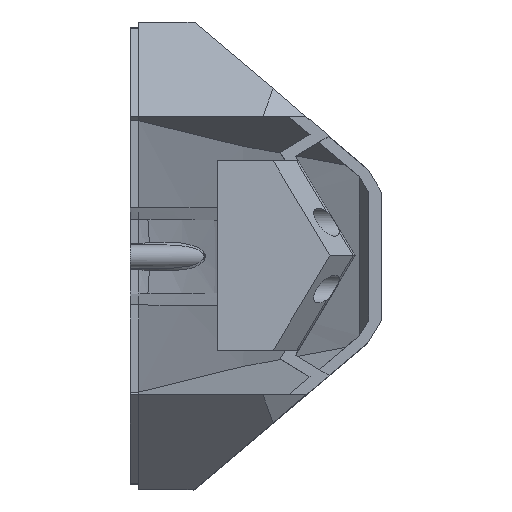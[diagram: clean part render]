
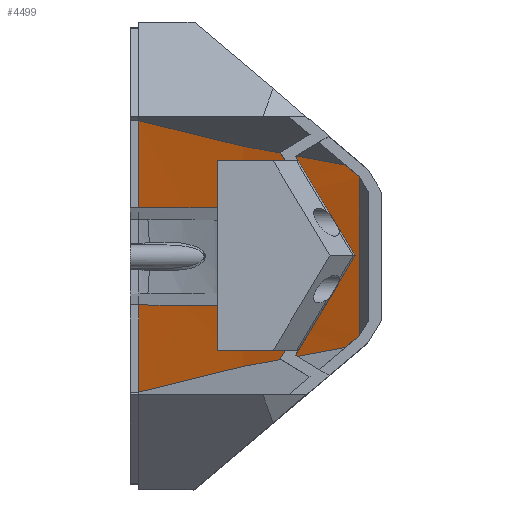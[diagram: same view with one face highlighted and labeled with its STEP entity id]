
A CAD part, top view. The second image highlights one B-rep face of the part: STEP entity #4499.
In plain terms, the highlighted cylindrical face has radius 400 mm (diameter 800 mm), a partial arc.
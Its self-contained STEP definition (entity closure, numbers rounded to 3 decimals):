
#728=CARTESIAN_POINT('',(35.435,-14.275,-13.934));
#729=CARTESIAN_POINT('',(34.609,-14.973,-14.403));
#730=CARTESIAN_POINT('',(33.782,-15.672,-14.867));
#731=CARTESIAN_POINT('',(32.954,-16.372,-15.329));
#1193=DIRECTION('',(0.,1.,0.));
#1194=VECTOR('',#1193,15.678);
#1195=CARTESIAN_POINT('',(-4.2,-24.395,-33.586));
#1196=LINE('',#1195,#1194);
#1197=CARTESIAN_POINT('',(-4.2,-8.717,-33.586));
#1198=CARTESIAN_POINT('',(-3.381,-8.724,
-33.235));
#1199=CARTESIAN_POINT('',(-1.684,-8.736,
-32.501));
#1200=CARTESIAN_POINT('',(1.,-8.749,
-31.318));
#1201=CARTESIAN_POINT('',(3.934,-8.758,
-29.997));
#1202=CARTESIAN_POINT('',(7.18,-8.762,
-28.503));
#1203=CARTESIAN_POINT('',(10.782,-8.757,
-26.804));
#1204=CARTESIAN_POINT('',(13.542,-8.746,
-25.467));
#1205=CARTESIAN_POINT('',(15.,-8.736,-24.748));
#1207=DIRECTION('',(0.,1.,0.));
#1208=VECTOR('',#1207,17.473);
#1209=CARTESIAN_POINT('',(15.,-8.736,-24.748));
#1210=LINE('',#1209,#1208);
#1211=CARTESIAN_POINT('',(15.,8.736,-24.748));
#1212=CARTESIAN_POINT('',(13.568,8.745,-25.454));
#1213=CARTESIAN_POINT('',(10.851,8.757,-26.771));
#1214=CARTESIAN_POINT('',(7.297,8.762,-28.449));
#1215=CARTESIAN_POINT('',(4.05,8.759,-29.944));
#1216=CARTESIAN_POINT('',(1.107,8.75,-31.27));
#1217=CARTESIAN_POINT('',(-1.617,8.736,
-32.472));
#1218=CARTESIAN_POINT('',(-3.356,8.724,
-33.225));
#1219=CARTESIAN_POINT('',(-4.2,8.717,-33.586));
#1221=DIRECTION('',(0.,1.,0.));
#1222=VECTOR('',#1221,15.678);
#1223=CARTESIAN_POINT('',(-4.2,8.717,-33.586));
#1224=LINE('',#1223,#1222);
#1386=CARTESIAN_POINT('',(32.954,16.372,-15.329));
#1387=CARTESIAN_POINT('',(20.751,18.252,-22.131));
#1388=CARTESIAN_POINT('',(8.362,20.943,-28.201));
#1389=CARTESIAN_POINT('',(-4.2,24.395,-33.586));
#1591=CARTESIAN_POINT('',(35.435,14.275,-13.934));
#1592=CARTESIAN_POINT('',(34.609,14.973,-14.403));
#1593=CARTESIAN_POINT('',(33.782,15.672,-14.867));
#1594=CARTESIAN_POINT('',(32.954,16.372,-15.329));
#1648=DIRECTION('',(0.,1.,0.));
#1649=VECTOR('',#1648,28.55);
#1650=CARTESIAN_POINT('',(35.435,-14.275,
-13.934));
#1651=LINE('',#1650,#1649);
#2173=CARTESIAN_POINT('',(32.954,-16.372,
-15.329));
#2174=CARTESIAN_POINT('',(20.751,-18.252,
-22.131));
#2175=CARTESIAN_POINT('',(8.362,-20.943,
-28.201));
#2176=CARTESIAN_POINT('',(-4.2,-24.395,-33.586));
#2278=CARTESIAN_POINT('',(15.,-8.736,-24.748));
#2279=CARTESIAN_POINT('',(15.,8.736,-24.748));
#2280=VERTEX_POINT('',#2278);
#2281=VERTEX_POINT('',#2279);
#2292=CARTESIAN_POINT('',(32.954,16.372,-15.329));
#2293=VERTEX_POINT('',#2292);
#2294=CARTESIAN_POINT('',(32.954,-16.372,
-15.329));
#2295=VERTEX_POINT('',#2294);
#2306=CARTESIAN_POINT('',(35.435,-14.275,
-13.934));
#2307=CARTESIAN_POINT('',(35.435,14.275,-13.934));
#2308=VERTEX_POINT('',#2306);
#2309=VERTEX_POINT('',#2307);
#2536=CARTESIAN_POINT('',(-4.2,24.395,-33.586));
#2538=VERTEX_POINT('',#2536);
#2540=CARTESIAN_POINT('',(-4.2,-24.395,-33.586));
#2542=VERTEX_POINT('',#2540);
#2544=CARTESIAN_POINT('',(-4.2,-8.717,-33.586));
#2545=VERTEX_POINT('',#2544);
#2546=CARTESIAN_POINT('',(-4.2,8.717,-33.586));
#2547=VERTEX_POINT('',#2546);
#4475=CARTESIAN_POINT('',(-161.797,40.,334.059));
#4476=DIRECTION('',(0.,1.,0.));
#4477=DIRECTION('',(0.,0.,-1.));
#4478=AXIS2_PLACEMENT_3D('',#4475,#4476,#4477);
#4479=CYLINDRICAL_SURFACE('',#4478,400.);
#4480=ORIENTED_EDGE('',*,*,#4466,.T.);
#4481=ORIENTED_EDGE('',*,*,#4435,.T.);
#4483=ORIENTED_EDGE('',*,*,#4482,.T.);
#4485=ORIENTED_EDGE('',*,*,#4484,.T.);
#4487=ORIENTED_EDGE('',*,*,#4486,.T.);
#4489=ORIENTED_EDGE('',*,*,#4488,.F.);
#4491=ORIENTED_EDGE('',*,*,#4490,.F.);
#4493=ORIENTED_EDGE('',*,*,#4492,.F.);
#4494=ORIENTED_EDGE('',*,*,#3836,.T.);
#4496=ORIENTED_EDGE('',*,*,#4495,.T.);
#4497=EDGE_LOOP('',(#4480,#4481,#4483,#4485,#4487,#4489,#4491,#4493,#4494,
#4496));
#4498=FACE_OUTER_BOUND('',#4497,.F.);
#4499=ADVANCED_FACE('',(#4498),#4479,.F.);
#732=B_SPLINE_CURVE_WITH_KNOTS('',3,(#728,#729,#730,#731),.UNSPECIFIED.,.F.,.F.,
(4,4),(0.,1.),.UNSPECIFIED.);
#1206=B_SPLINE_CURVE_WITH_KNOTS('',3,(#1197,#1198,#1199,#1200,#1201,#1202,#1203,
#1204,#1205),.UNSPECIFIED.,.F.,.F.,(4,1,1,1,1,1,4),(0.,0.167,
0.333,0.5,0.667,0.833,1.),
.UNSPECIFIED.);
#1220=B_SPLINE_CURVE_WITH_KNOTS('',3,(#1211,#1212,#1213,#1214,#1215,#1216,#1217,
#1218,#1219),.UNSPECIFIED.,.F.,.F.,(4,1,1,1,1,1,4),(0.,0.167,
0.333,0.5,0.667,0.833,1.),
.UNSPECIFIED.);
#1390=B_SPLINE_CURVE_WITH_KNOTS('',3,(#1386,#1387,#1388,#1389),.UNSPECIFIED.,
.F.,.F.,(4,4),(0.,1.),.UNSPECIFIED.);
#1595=B_SPLINE_CURVE_WITH_KNOTS('',3,(#1591,#1592,#1593,#1594),.UNSPECIFIED.,
.F.,.F.,(4,4),(0.,1.),.UNSPECIFIED.);
#2177=B_SPLINE_CURVE_WITH_KNOTS('',3,(#2173,#2174,#2175,#2176),.UNSPECIFIED.,
.F.,.F.,(4,4),(0.,1.),.UNSPECIFIED.);
#3836=EDGE_CURVE('',#2308,#2295,#732,.T.);
#4435=EDGE_CURVE('',#2545,#2280,#1206,.T.);
#4466=EDGE_CURVE('',#2542,#2545,#1196,.T.);
#4482=EDGE_CURVE('',#2280,#2281,#1210,.T.);
#4484=EDGE_CURVE('',#2281,#2547,#1220,.T.);
#4486=EDGE_CURVE('',#2547,#2538,#1224,.T.);
#4488=EDGE_CURVE('',#2293,#2538,#1390,.T.);
#4490=EDGE_CURVE('',#2309,#2293,#1595,.T.);
#4492=EDGE_CURVE('',#2308,#2309,#1651,.T.);
#4495=EDGE_CURVE('',#2295,#2542,#2177,.T.);
